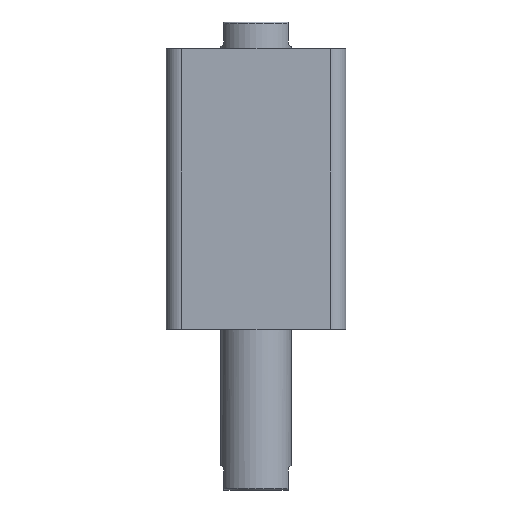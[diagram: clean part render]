
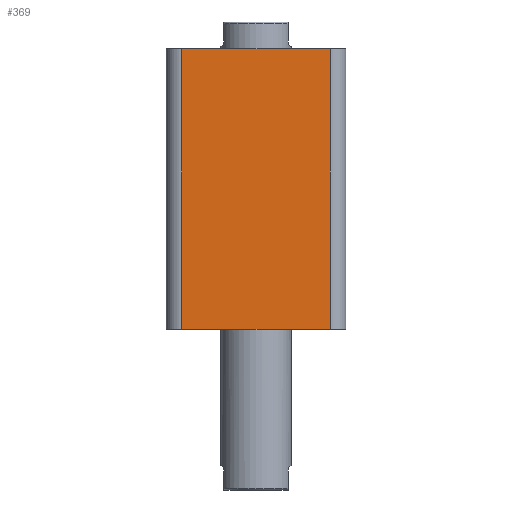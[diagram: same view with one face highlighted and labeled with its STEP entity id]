
A CAD part, front view. The second image highlights one B-rep face of the part: STEP entity #369.
In plain terms, the highlighted planar face has unit normal (0, -1, 0).
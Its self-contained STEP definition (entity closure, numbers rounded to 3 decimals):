
#369 = ADVANCED_FACE ( 'NONE', ( #2081 ), #1641, .F. ) ;
#503 = EDGE_CURVE ( 'NONE', #3197, #3058, #2249, .T. ) ;
#504 = EDGE_CURVE ( 'NONE', #3197, #3196, #2250, .T. ) ;
#505 = EDGE_CURVE ( 'NONE', #3031, #3196, #2253, .T. ) ;
#506 = EDGE_CURVE ( 'NONE', #3058, #3031, #2255, .T. ) ;
#670 = AXIS2_PLACEMENT_3D ( 'NONE', #1639, #1642, #1643 ) ;
#929 = ORIENTED_EDGE ( 'NONE', *, *, #506, .T. ) ;
#930 = ORIENTED_EDGE ( 'NONE', *, *, #505, .T. ) ;
#931 = ORIENTED_EDGE ( 'NONE', *, *, #503, .T. ) ;
#932 = ORIENTED_EDGE ( 'NONE', *, *, #504, .F. ) ;
#1251 = EDGE_LOOP ( 'NONE', ( #929, #930, #932, #931 ) ) ;
#1639 = CARTESIAN_POINT ( 'NONE',  ( -57., -57., 178. ) ) ;
#1641 = PLANE ( 'NONE',  #670 ) ;
#1642 = DIRECTION ( 'NONE',  ( 0., 1., 0. ) ) ;
#1643 = DIRECTION ( 'NONE',  ( 0., 0., 1. ) ) ;
#2081 = FACE_OUTER_BOUND ( 'NONE', #1251, .T. ) ;
#2249 = LINE ( 'NONE', #2623, #2252 ) ;
#2250 = LINE ( 'NONE', #2622, #2254 ) ;
#2252 = VECTOR ( 'NONE', #2612, 1000. ) ;
#2253 = LINE ( 'NONE', #2628, #2256 ) ;
#2254 = VECTOR ( 'NONE', #2627, 1000. ) ;
#2255 = LINE ( 'NONE', #2630, #2258 ) ;
#2256 = VECTOR ( 'NONE', #2629, 1000. ) ;
#2258 = VECTOR ( 'NONE', #2631, 1000. ) ;
#2612 = DIRECTION ( 'NONE',  ( 0., 0., -1. ) ) ;
#2622 = CARTESIAN_POINT ( 'NONE',  ( -57., -57., 178. ) ) ;
#2623 = CARTESIAN_POINT ( 'NONE',  ( -47., -57., 178. ) ) ;
#2627 = DIRECTION ( 'NONE',  ( 1., 0., 0. ) ) ;
#2628 = CARTESIAN_POINT ( 'NONE',  ( 47., -57., 178. ) ) ;
#2629 = DIRECTION ( 'NONE',  ( 0., 0., 1. ) ) ;
#2630 = CARTESIAN_POINT ( 'NONE',  ( -57., -57., 0. ) ) ;
#2631 = DIRECTION ( 'NONE',  ( 1., 0., 0. ) ) ;
#2902 = CARTESIAN_POINT ( 'NONE',  ( 47., -57., 0. ) ) ;
#2931 = CARTESIAN_POINT ( 'NONE',  ( -47., -57., 0. ) ) ;
#2937 = CARTESIAN_POINT ( 'NONE',  ( 47., -57., 178. ) ) ;
#2938 = CARTESIAN_POINT ( 'NONE',  ( -47., -57., 178. ) ) ;
#3031 = VERTEX_POINT ( 'NONE', #2902 ) ;
#3058 = VERTEX_POINT ( 'NONE', #2931 ) ;
#3196 = VERTEX_POINT ( 'NONE', #2937 ) ;
#3197 = VERTEX_POINT ( 'NONE', #2938 ) ;
